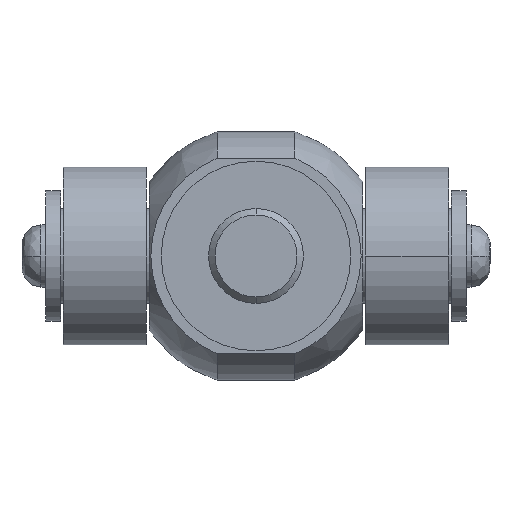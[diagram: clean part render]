
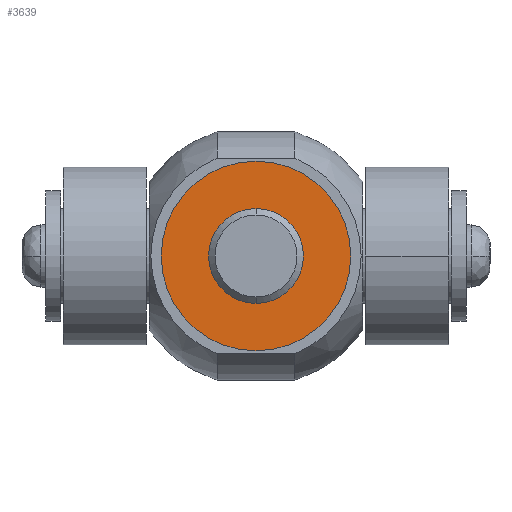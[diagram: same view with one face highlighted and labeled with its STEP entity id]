
A CAD part, front view. The second image highlights one B-rep face of the part: STEP entity #3639.
In plain terms, the highlighted planar face has unit normal (0, -1, 0).
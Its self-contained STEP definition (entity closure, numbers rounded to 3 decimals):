
#327 = CIRCLE ( 'NONE', #328, 16. ) ;
#328 = AXIS2_PLACEMENT_3D ( 'NONE', #329, #330, #331 ) ;
#329 = CARTESIAN_POINT ( 'NONE',  ( 0., -18., 0. ) ) ;
#330 = DIRECTION ( 'NONE',  ( 0., 1., 0. ) ) ;
#331 = DIRECTION ( 'NONE',  ( 0., 0., -1. ) ) ;
#339 = CARTESIAN_POINT ( 'NONE',  ( 0., -18., 8. ) ) ;
#404 = CIRCLE ( 'NONE', #405, 16. ) ;
#405 = AXIS2_PLACEMENT_3D ( 'NONE', #406, #409, #410 ) ;
#406 = CARTESIAN_POINT ( 'NONE',  ( 0., -18., 0. ) ) ;
#409 = DIRECTION ( 'NONE',  ( 0., 1., 0. ) ) ;
#410 = DIRECTION ( 'NONE',  ( 0., 0., -1. ) ) ;
#505 = CARTESIAN_POINT ( 'NONE',  ( 0., -18., -16. ) ) ;
#763 = VERTEX_POINT ( 'NONE', #1997 ) ;
#773 = CARTESIAN_POINT ( 'NONE',  ( 0., -18., 16. ) ) ;
#774 = FACE_BOUND ( 'NONE', #3626, .T. ) ;
#775 = FACE_OUTER_BOUND ( 'NONE', #3506, .T. ) ;
#776 = PLANE ( 'NONE',  #777 ) ;
#777 = AXIS2_PLACEMENT_3D ( 'NONE', #778, #779, #782 ) ;
#778 = CARTESIAN_POINT ( 'NONE',  ( 16.64, -18., -16.64 ) ) ;
#779 = DIRECTION ( 'NONE',  ( 0., 1., 0. ) ) ;
#782 = DIRECTION ( 'NONE',  ( -1., 0., 0. ) ) ;
#964 = EDGE_CURVE ( 'NONE', #763, #2809, #2140, .T. ) ;
#1259 = CIRCLE ( 'NONE', #1260, 8. ) ;
#1260 = AXIS2_PLACEMENT_3D ( 'NONE', #1261, #1262, #1263 ) ;
#1261 = CARTESIAN_POINT ( 'NONE',  ( 0., -18., 0. ) ) ;
#1262 = DIRECTION ( 'NONE',  ( 0., 1., 0. ) ) ;
#1263 = DIRECTION ( 'NONE',  ( 0., 0., -1. ) ) ;
#1790 = ORIENTED_EDGE ( 'NONE', *, *, #2991, .F. ) ;
#1997 = CARTESIAN_POINT ( 'NONE',  ( 0., -18., -8. ) ) ;
#2140 = CIRCLE ( 'NONE', #2141, 8. ) ;
#2141 = AXIS2_PLACEMENT_3D ( 'NONE', #2142, #2143, #2144 ) ;
#2142 = CARTESIAN_POINT ( 'NONE',  ( 0., -18., 0. ) ) ;
#2143 = DIRECTION ( 'NONE',  ( 0., 1., 0. ) ) ;
#2144 = DIRECTION ( 'NONE',  ( 0., 0., -1. ) ) ;
#2758 = EDGE_CURVE ( 'NONE', #3615, #3184, #327, .T. ) ;
#2809 = VERTEX_POINT ( 'NONE', #339 ) ;
#2991 = EDGE_CURVE ( 'NONE', #3184, #3615, #404, .T. ) ;
#3184 = VERTEX_POINT ( 'NONE', #773 ) ;
#3445 = ORIENTED_EDGE ( 'NONE', *, *, #2758, .F. ) ;
#3506 = EDGE_LOOP ( 'NONE', ( #3445, #1790 ) ) ;
#3520 = EDGE_CURVE ( 'NONE', #2809, #763, #1259, .T. ) ;
#3550 = ORIENTED_EDGE ( 'NONE', *, *, #3520, .T. ) ;
#3592 = ORIENTED_EDGE ( 'NONE', *, *, #964, .T. ) ;
#3615 = VERTEX_POINT ( 'NONE', #505 ) ;
#3626 = EDGE_LOOP ( 'NONE', ( #3592, #3550 ) ) ;
#3639 = ADVANCED_FACE ( 'NONE', ( #774, #775 ), #776, .F. ) ;
